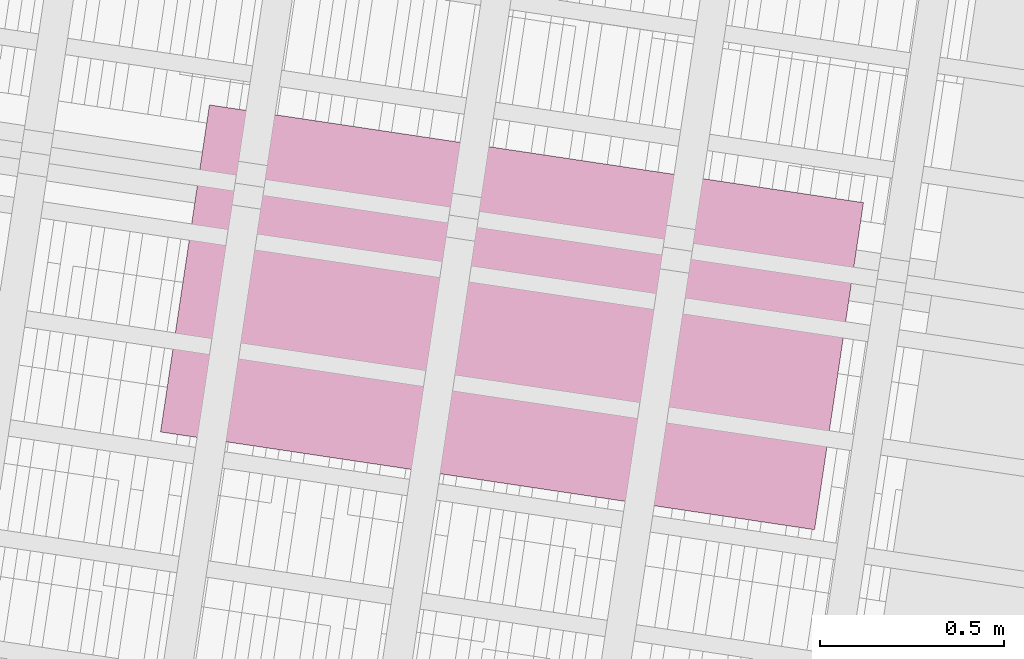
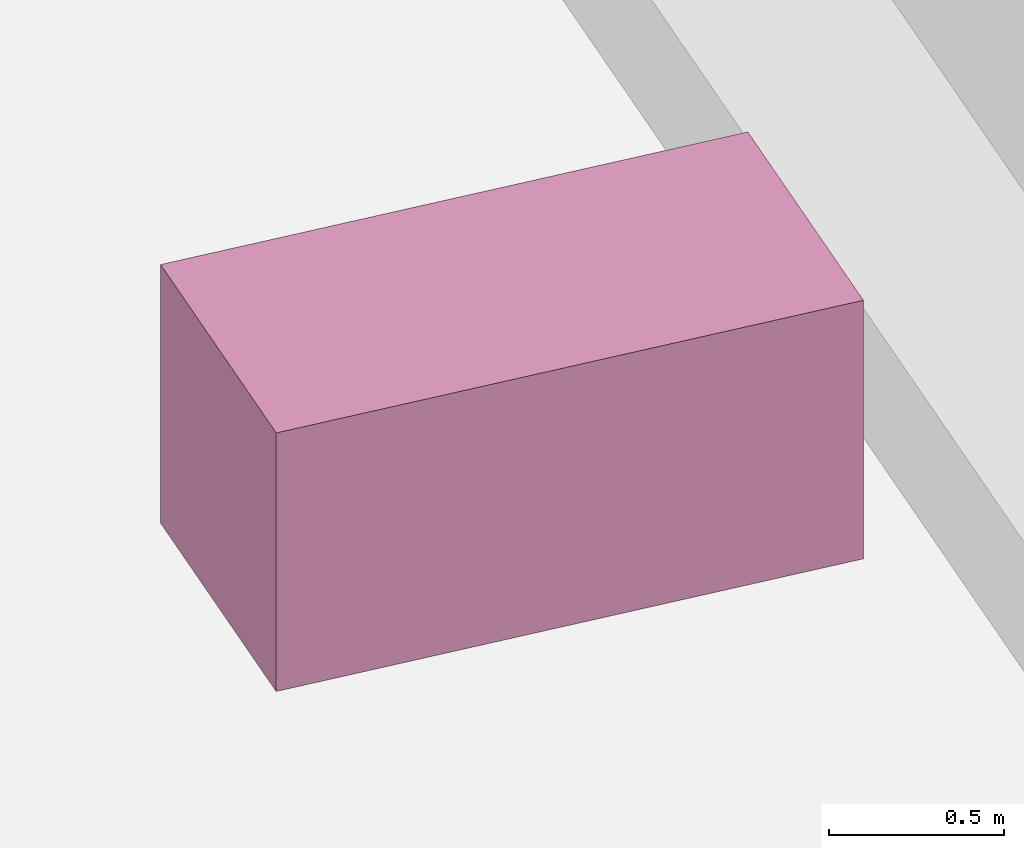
# One storey, part 127 of 128: 1 furnishing.
"""IFC4 building model written with IfcOpenShell, lengths in metres."""

from ifc_helpers import new_model, si_unit, direction, frame, origin_with_axes, place, context, subcontext, project, spatial, polyline, outline, extrude, material, element, save


model = new_model("IFC4")

# Units and contexts
model_context = context("Model", 3, precision=1e-05, world=origin_with_axes(), true_north=direction((0.0, 1.0)))
body_context = subcontext(model_context, "Body", "Model", "MODEL_VIEW")
ifc_project = project(units=[si_unit("VOLUMEUNIT", "CUBIC_METRE"), si_unit("LENGTHUNIT", "METRE"), si_unit("AREAUNIT", "SQUARE_METRE")], contexts=[model_context])

# Site, building, storey
site_placement = place(None, origin_with_axes())
site = spatial("IfcSite", under=ifc_project, at=site_placement, Name="Lares · Rua das Mercês · artigo 4771")
building_placement = place(site_placement, frame((15.0, 9.7, 13.9), z_axis=(0.0, 0.0, 1.0), x_axis=(0.989015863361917, -0.147809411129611, 0.0)))
building = spatial("IfcBuilding", under=site, at=building_placement, Name="Casa Sobreposta")
storey_placement = place(building_placement, origin_with_axes())
storey = spatial("IfcBuildingStorey", under=building, at=storey_placement, Name="00 · Habitação e estacionamento", Elevation=13.9)

# Furnishing
ifc_material = material(Name="OSB", Category="wood")
furnishing_placement = place(storey_placement, origin_with_axes())
element("IfcFurnishingElement", 1, at=furnishing_placement, inside=storey, material=ifc_material, Name="Ilha da cozinha · esquema", context=body_context, shape_type="SweptSolid", body=[
    extrude(outline(polyline([(7.1, 2.5), (7.1, 3.4), (5.3, 3.4), (5.3, 2.5), (7.1, 2.5)])), origin_with_axes(), (0.0, 0.0, 1.0), 0.9),
])

save(model, "model.ifc")
